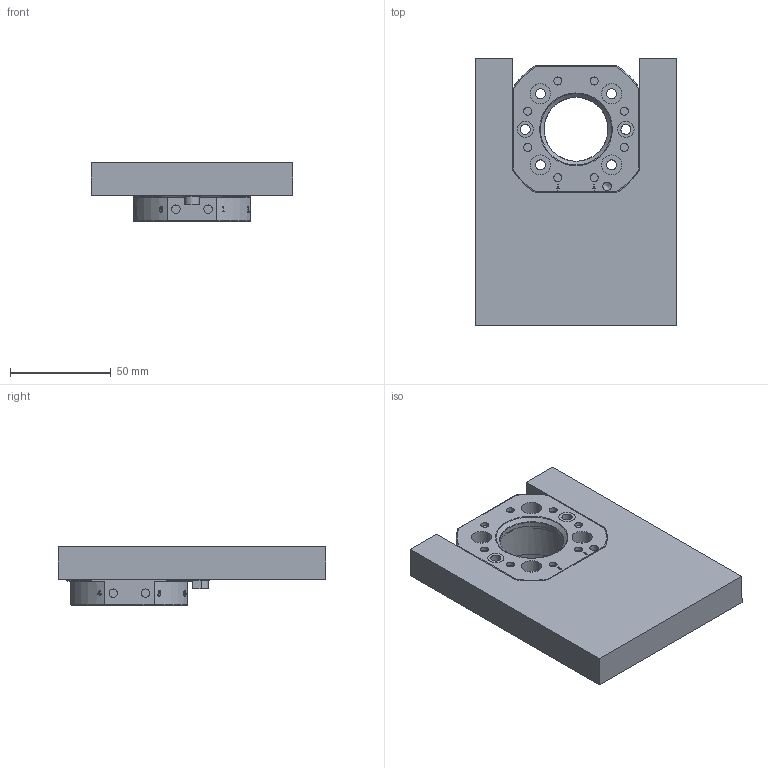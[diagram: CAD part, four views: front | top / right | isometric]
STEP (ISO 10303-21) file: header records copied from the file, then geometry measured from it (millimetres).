
FILE_DESCRIPTION(/* description */ (''),/* implementation_level */ '2;1');
FILE_NAME(/* name */ '3D G-AC063-2UEP_LT_Rev.1.03.stp',/* time_stamp */ '2026-03-24T10:35:45+01:00',/* author */ ('vbednarz'),/* organization */ (''),/* preprocessor_version */ 'ST-DEVELOPER v20.1',/* originating_system */ 'Autodesk Inventor 2026',/* authorisation */ '');
FILE_SCHEMA (('AUTOMOTIVE_DESIGN { 1 0 10303 214 3 1 1 }'));
Length unit declared in the file: millimetre
Products named in the file (1): G-AC063-2UEP
Bounding box: 100.12 x 133 x 29.1 mm (x, y, z)
Volume: 202928.5 mm3; surface area: 47983.6 mm2
Topology: 2 solids, 16 shells, 395 faces, 960 edges, 626 vertices
Faces by surface type: plane 170, cylinder 102, bspline 65, cone 31, torus 23, sphere 4
Full cylindrical faces by diameter (mm): 1.6 x1, 2.02 x4, 2.5 x2, 3.8 x1, 4 x8, 4.18 x1, 4.2 x16, 5 x6, 5.6 x2, 6.01 x4, 8.02 x2, 10 x4, 31.7 x1, 40 x1, 41 x1
Entity records: 13986 total; most frequent: CARTESIAN_POINT 4666, ORIENTED_EDGE 1874, DIRECTION 1700, EDGE_CURVE 937, VERTEX_POINT 626, AXIS2_PLACEMENT_3D 616, LINE 468, VECTOR 468
